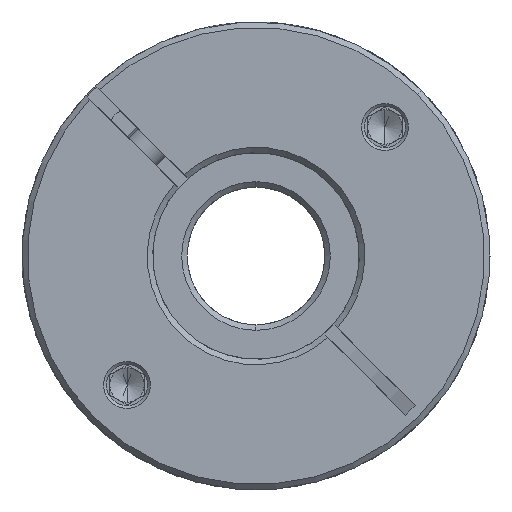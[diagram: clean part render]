
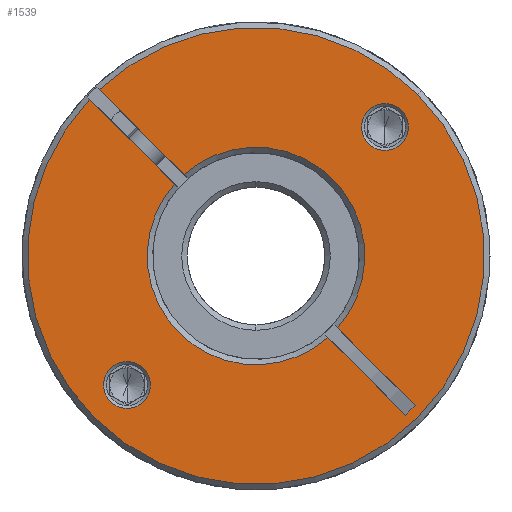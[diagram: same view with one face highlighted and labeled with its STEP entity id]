
A CAD part, front view. The second image highlights one B-rep face of the part: STEP entity #1539.
In plain terms, the highlighted planar face has unit normal (0, -1, 0).
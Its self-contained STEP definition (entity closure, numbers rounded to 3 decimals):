
#73 = AXIS2_PLACEMENT_3D ( 'NONE', #13768, #662, #5333 ) ;
#438 = EDGE_CURVE ( 'NONE', #17430, #3719, #9492, .T. ) ;
#454 = CIRCLE ( 'NONE', #19077, 3.4 ) ;
#662 = DIRECTION ( 'NONE',  ( 0., -1., 0. ) ) ;
#941 = DIRECTION ( 'NONE',  ( 0., 1., 0. ) ) ;
#1083 = EDGE_CURVE ( 'NONE', #7573, #3041, #13879, .T. ) ;
#1220 = EDGE_CURVE ( 'NONE', #8775, #19745, #10501, .T. ) ;
#1476 = CARTESIAN_POINT ( 'NONE',  ( -3.442, -67.045, 67.293 ) ) ;
#1539 = ADVANCED_FACE ( 'NONE', ( #12031, #4246, #11254 ), #12777, .T. ) ;
#1578 = CIRCLE ( 'NONE', #16033, 33.2 ) ;
#1801 = VECTOR ( 'NONE', #19858, 1000. ) ;
#1944 = CARTESIAN_POINT ( 'NONE',  ( 18.988, -67.045, 44.862 ) ) ;
#2159 = DIRECTION ( 'NONE',  ( 0.707, 0., 0.707 ) ) ;
#2262 = CARTESIAN_POINT ( 'NONE',  ( -23.878, -67.045, 46.858 ) ) ;
#2302 = CIRCLE ( 'NONE', #11620, 3.4 ) ;
#2311 = VERTEX_POINT ( 'NONE', #8465 ) ;
#2507 = DIRECTION ( 'NONE',  ( 0.707, 0., 0.707 ) ) ;
#3002 = CARTESIAN_POINT ( 'NONE',  ( 18.988, -67.045, 44.862 ) ) ;
#3041 = VERTEX_POINT ( 'NONE', #20845 ) ;
#3078 = CIRCLE ( 'NONE', #14823, 3.4 ) ;
#3091 = DIRECTION ( 'NONE',  ( 0., 1., 0. ) ) ;
#3135 = CARTESIAN_POINT ( 'NONE',  ( -25.493, -67.045, 92.172 ) ) ;
#3174 = ORIENTED_EDGE ( 'NONE', *, *, #16780, .T. ) ;
#3400 = EDGE_CURVE ( 'NONE', #8775, #15494, #1578, .T. ) ;
#3530 = CIRCLE ( 'NONE', #18786, 33.2 ) ;
#3719 = VERTEX_POINT ( 'NONE', #10261 ) ;
#3760 = VERTEX_POINT ( 'NONE', #1944 ) ;
#4190 = VERTEX_POINT ( 'NONE', #3135 ) ;
#4246 = FACE_BOUND ( 'NONE', #11334, .T. ) ;
#4408 = EDGE_CURVE ( 'NONE', #2311, #4190, #18007, .T. ) ;
#4898 = ORIENTED_EDGE ( 'NONE', *, *, #8976, .T. ) ;
#4908 = DIRECTION ( 'NONE',  ( 0.707, 0., -0.707 ) ) ;
#5023 = DIRECTION ( 'NONE',  ( 0.707, 0., -0.707 ) ) ;
#5068 = CARTESIAN_POINT ( 'NONE',  ( -21.473, -67.045, 49.262 ) ) ;
#5155 = ORIENTED_EDGE ( 'NONE', *, *, #19383, .T. ) ;
#5333 = DIRECTION ( 'NONE',  ( 0.707, 0., 0.707 ) ) ;
#5335 = ORIENTED_EDGE ( 'NONE', *, *, #1220, .F. ) ;
#5433 = CARTESIAN_POINT ( 'NONE',  ( 9.122, -67.045, 57.557 ) ) ;
#5627 = CARTESIAN_POINT ( 'NONE',  ( -2.735, -67.045, 68. ) ) ;
#5700 = DIRECTION ( 'NONE',  ( 0.707, 0., 0.707 ) ) ;
#5808 = LINE ( 'NONE', #11531, #13101 ) ;
#6372 = CARTESIAN_POINT ( 'NONE',  ( 20.402, -67.045, 46.277 ) ) ;
#6472 = CARTESIAN_POINT ( 'NONE',  ( -14.592, -67.045, 78.443 ) ) ;
#6664 = ORIENTED_EDGE ( 'NONE', *, *, #8557, .T. ) ;
#6925 = DIRECTION ( 'NONE',  ( 0.707, 0., 0.707 ) ) ;
#6996 = EDGE_LOOP ( 'NONE', ( #9658, #4898 ) ) ;
#7155 = VERTEX_POINT ( 'NONE', #5433 ) ;
#7509 = DIRECTION ( 'NONE',  ( 0.707, 0., 0.707 ) ) ;
#7573 = VERTEX_POINT ( 'NONE', #13564 ) ;
#7615 = EDGE_LOOP ( 'NONE', ( #5335, #9998, #16922, #13721, #12064, #13375, #3174, #19870, #9128, #18360, #5155 ) ) ;
#8152 = DIRECTION ( 'NONE',  ( 0., 1., 0. ) ) ;
#8465 = CARTESIAN_POINT ( 'NONE',  ( 20.741, -67.045, 91.476 ) ) ;
#8542 = CARTESIAN_POINT ( 'NONE',  ( 7.708, -67.045, 56.143 ) ) ;
#8557 = EDGE_CURVE ( 'NONE', #20004, #9331, #454, .T. ) ;
#8655 = AXIS2_PLACEMENT_3D ( 'NONE', #15252, #10133, #6925 ) ;
#8775 = VERTEX_POINT ( 'NONE', #18734 ) ;
#8869 = CARTESIAN_POINT ( 'NONE',  ( 16.003, -67.045, 86.738 ) ) ;
#8976 = EDGE_CURVE ( 'NONE', #3719, #17430, #2302, .T. ) ;
#9128 = ORIENTED_EDGE ( 'NONE', *, *, #19715, .T. ) ;
#9331 = VERTEX_POINT ( 'NONE', #2262 ) ;
#9492 = CIRCLE ( 'NONE', #13930, 3.4 ) ;
#9658 = ORIENTED_EDGE ( 'NONE', *, *, #438, .T. ) ;
#9661 = EDGE_CURVE ( 'NONE', #9331, #20004, #3078, .T. ) ;
#9750 = CARTESIAN_POINT ( 'NONE',  ( -2.735, -67.045, 68. ) ) ;
#9843 = CARTESIAN_POINT ( 'NONE',  ( -3.442, -67.045, 67.293 ) ) ;
#9894 = DIRECTION ( 'NONE',  ( 0., 1., 0. ) ) ;
#9967 = DIRECTION ( 'NONE',  ( -0.707, 0., -0.707 ) ) ;
#9998 = ORIENTED_EDGE ( 'NONE', *, *, #3400, .T. ) ;
#10133 = DIRECTION ( 'NONE',  ( 0., 1., 0. ) ) ;
#10261 = CARTESIAN_POINT ( 'NONE',  ( 13.599, -67.045, 84.334 ) ) ;
#10327 = DIRECTION ( 'NONE',  ( 0., 1., 0. ) ) ;
#10501 = LINE ( 'NONE', #9843, #16931 ) ;
#11254 = FACE_OUTER_BOUND ( 'NONE', #7615, .T. ) ;
#11334 = EDGE_LOOP ( 'NONE', ( #6664, #12094 ) ) ;
#11531 = CARTESIAN_POINT ( 'NONE',  ( -2.028, -67.045, 68.707 ) ) ;
#11620 = AXIS2_PLACEMENT_3D ( 'NONE', #15771, #941, #2507 ) ;
#11822 = CIRCLE ( 'NONE', #15326, 15.8 ) ;
#11892 = CARTESIAN_POINT ( 'NONE',  ( -26.211, -67.045, 44.524 ) ) ;
#12031 = FACE_BOUND ( 'NONE', #6996, .T. ) ;
#12048 = DIRECTION ( 'NONE',  ( 0., 1., 0. ) ) ;
#12064 = ORIENTED_EDGE ( 'NONE', *, *, #21548, .T. ) ;
#12094 = ORIENTED_EDGE ( 'NONE', *, *, #9661, .T. ) ;
#12156 = AXIS2_PLACEMENT_3D ( 'NONE', #16079, #14495, #14357 ) ;
#12235 = VERTEX_POINT ( 'NONE', #8542 ) ;
#12260 = DIRECTION ( 'NONE',  ( 0., -1., 0. ) ) ;
#12581 = EDGE_CURVE ( 'NONE', #7155, #16266, #5808, .T. ) ;
#12777 = PLANE ( 'NONE',  #12156 ) ;
#12954 = CARTESIAN_POINT ( 'NONE',  ( -2.735, -67.045, 68. ) ) ;
#13004 = LINE ( 'NONE', #1476, #1801 ) ;
#13075 = DIRECTION ( 'NONE',  ( 0.707, 0., 0.707 ) ) ;
#13101 = VECTOR ( 'NONE', #21210, 1000. ) ;
#13375 = ORIENTED_EDGE ( 'NONE', *, *, #1083, .T. ) ;
#13516 = AXIS2_PLACEMENT_3D ( 'NONE', #12954, #3091, #17809 ) ;
#13564 = CARTESIAN_POINT ( 'NONE',  ( -13.178, -67.045, 79.857 ) ) ;
#13721 = ORIENTED_EDGE ( 'NONE', *, *, #4408, .T. ) ;
#13768 = CARTESIAN_POINT ( 'NONE',  ( -2.735, -67.045, 68. ) ) ;
#13879 = CIRCLE ( 'NONE', #13516, 15.8 ) ;
#13930 = AXIS2_PLACEMENT_3D ( 'NONE', #8869, #12048, #2159 ) ;
#14357 = DIRECTION ( 'NONE',  ( 0.707, 0., 0.707 ) ) ;
#14495 = DIRECTION ( 'NONE',  ( 0., -1., 0. ) ) ;
#14701 = LINE ( 'NONE', #3002, #18810 ) ;
#14705 = CARTESIAN_POINT ( 'NONE',  ( 18.407, -67.045, 89.142 ) ) ;
#14823 = AXIS2_PLACEMENT_3D ( 'NONE', #15239, #10327, #20042 ) ;
#15021 = CIRCLE ( 'NONE', #8655, 15.8 ) ;
#15239 = CARTESIAN_POINT ( 'NONE',  ( -21.473, -67.045, 49.262 ) ) ;
#15252 = CARTESIAN_POINT ( 'NONE',  ( -2.735, -67.045, 68. ) ) ;
#15326 = AXIS2_PLACEMENT_3D ( 'NONE', #9750, #9894, #13075 ) ;
#15494 = VERTEX_POINT ( 'NONE', #11892 ) ;
#15669 = DIRECTION ( 'NONE',  ( 0., -1., 0. ) ) ;
#15771 = CARTESIAN_POINT ( 'NONE',  ( 16.003, -67.045, 86.738 ) ) ;
#15820 = CARTESIAN_POINT ( 'NONE',  ( -2.735, -67.045, 68. ) ) ;
#15939 = EDGE_CURVE ( 'NONE', #12235, #3760, #13004, .T. ) ;
#16033 = AXIS2_PLACEMENT_3D ( 'NONE', #5627, #12260, #5700 ) ;
#16079 = CARTESIAN_POINT ( 'NONE',  ( -2.735, -67.045, 68. ) ) ;
#16266 = VERTEX_POINT ( 'NONE', #6372 ) ;
#16780 = EDGE_CURVE ( 'NONE', #3041, #7155, #15021, .T. ) ;
#16922 = ORIENTED_EDGE ( 'NONE', *, *, #20196, .T. ) ;
#16931 = VECTOR ( 'NONE', #5023, 1000. ) ;
#17430 = VERTEX_POINT ( 'NONE', #14705 ) ;
#17809 = DIRECTION ( 'NONE',  ( 0.707, 0., 0.707 ) ) ;
#18007 = CIRCLE ( 'NONE', #73, 33.2 ) ;
#18155 = DIRECTION ( 'NONE',  ( 0.707, 0., 0.707 ) ) ;
#18360 = ORIENTED_EDGE ( 'NONE', *, *, #15939, .F. ) ;
#18734 = CARTESIAN_POINT ( 'NONE',  ( -26.908, -67.045, 90.758 ) ) ;
#18786 = AXIS2_PLACEMENT_3D ( 'NONE', #15820, #15669, #7509 ) ;
#18810 = VECTOR ( 'NONE', #9967, 1000. ) ;
#19077 = AXIS2_PLACEMENT_3D ( 'NONE', #5068, #8152, #18155 ) ;
#19383 = EDGE_CURVE ( 'NONE', #12235, #19745, #11822, .T. ) ;
#19715 = EDGE_CURVE ( 'NONE', #16266, #3760, #14701, .T. ) ;
#19745 = VERTEX_POINT ( 'NONE', #6472 ) ;
#19771 = VECTOR ( 'NONE', #4908, 1000. ) ;
#19858 = DIRECTION ( 'NONE',  ( 0.707, 0., -0.707 ) ) ;
#19870 = ORIENTED_EDGE ( 'NONE', *, *, #12581, .T. ) ;
#20004 = VERTEX_POINT ( 'NONE', #21515 ) ;
#20042 = DIRECTION ( 'NONE',  ( 0.707, 0., 0.707 ) ) ;
#20196 = EDGE_CURVE ( 'NONE', #15494, #2311, #3530, .T. ) ;
#20553 = LINE ( 'NONE', #20925, #19771 ) ;
#20845 = CARTESIAN_POINT ( 'NONE',  ( 8.437, -67.045, 79.172 ) ) ;
#20925 = CARTESIAN_POINT ( 'NONE',  ( -2.028, -67.045, 68.707 ) ) ;
#21210 = DIRECTION ( 'NONE',  ( 0.707, 0., -0.707 ) ) ;
#21515 = CARTESIAN_POINT ( 'NONE',  ( -19.069, -67.045, 51.666 ) ) ;
#21548 = EDGE_CURVE ( 'NONE', #4190, #7573, #20553, .T. ) ;
